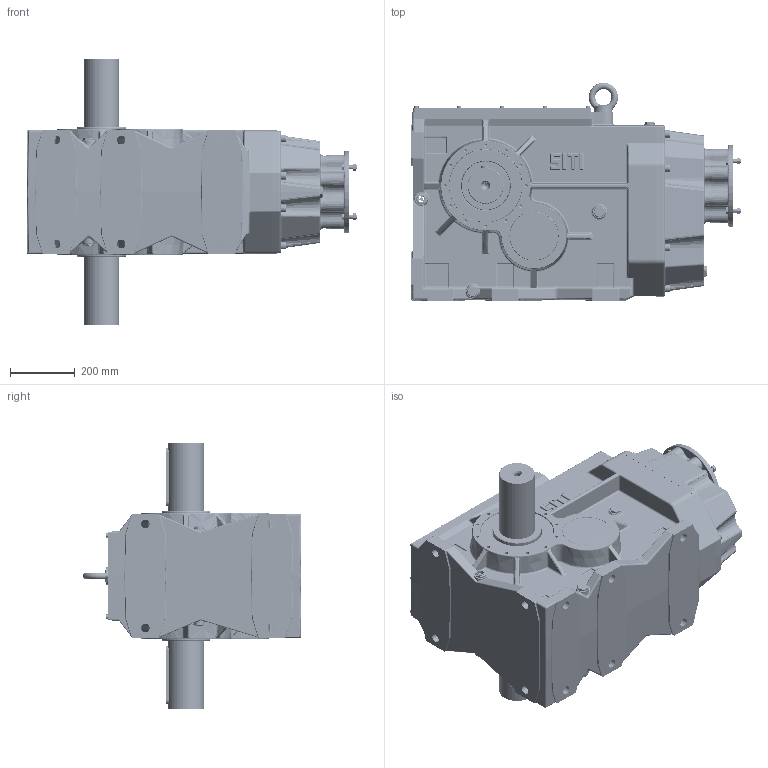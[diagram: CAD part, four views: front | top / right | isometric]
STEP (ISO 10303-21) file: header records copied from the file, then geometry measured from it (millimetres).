
FILE_DESCRIPTION((''),'2;1');
FILE_NAME('O:\Figurini\Figurini BH\3D\200\MBHGC 200 MD GR 100-112 B5.stp','2013-05-28T17:26:57',('d.iannaccio'),(''),'Autodesk Inventor 2012','Autodesk Inventor 2012','');
FILE_SCHEMA(('AUTOMOTIVE_DESIGN { 1 0 10303 214 1 1 1 1 }'));
Length unit declared in the file: millimetre
Products named in the file (1): MBHGC_200 MD GR 100 B5
Bounding box: 1016.5 x 672.86 x 820 mm (x, y, z)
Volume: 59036858.3 mm3; surface area: 5300755.4 mm2
Topology: 4 solids, 65 shells, 4143 faces, 9824 edges, 5880 vertices
Faces by surface type: cylinder 1278, plane 1214, bspline 671, torus 430, cone 387, sphere 163
Full cylindrical faces by diameter (mm): 2.4 x1, 6.647 x13, 8 x25, 9 x12, 10 x18, 10.106 x24, 10.5 x2, 12 x24, 13 x20, 13.835 x8, 14 x4, 16 x8, 17 x9, 17.25 x2, 18 x9, 19.6 x1, 20 x4, 20.5 x8, 20.752 x2, 21 x2, 22 x1, 24 x8, 24.117 x8, 25 x1, 26 x1, 26.5 x2, 27 x10, 31 x7, 31.9 x1, 40 x1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
Entity records: 142487 total; most frequent: CARTESIAN_POINT 49981, DIRECTION 18303, ORIENTED_EDGE 17702, EDGE_CURVE 8851, AXIS2_PLACEMENT_3D 7549, VERTEX_POINT 5596, EDGE_LOOP 5038, FACE_OUTER_BOUND 4143
